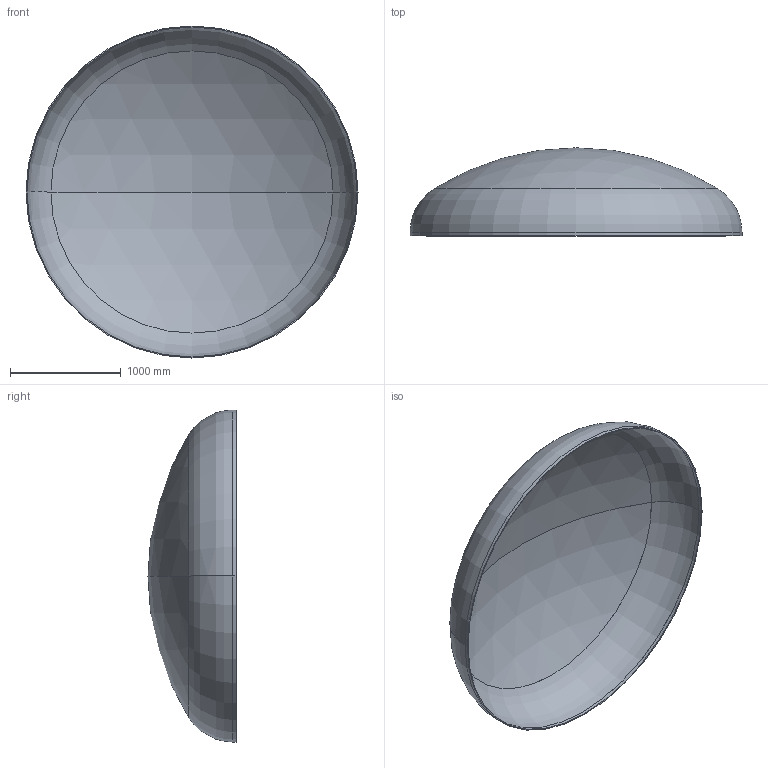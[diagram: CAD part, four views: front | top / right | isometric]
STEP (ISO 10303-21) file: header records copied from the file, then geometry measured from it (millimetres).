
FILE_DESCRIPTION (( 'STEP AP203' ), '1' );
FILE_NAME ('DIN 28013 Korbbogenform_-_Boden DIN 28013 - 3000 x 30 - I - s=9.step', '2016-07-01T17:27:46', ( '' ), ( '' ), 'SwSTEP 2.0', 'SolidWorks 2013', '' );
FILE_SCHEMA (( 'CONFIG_CONTROL_DESIGN' ));
Length unit declared in the file: millimetre
Products named in the file (1): DIN 28013 Korbbogenform_-_Boden DIN 28013 - 3000 x 30 - I - s=9
Bounding box: 3000 x 795.64 x 3000 mm (x, y, z)
Volume: 90229607.7 mm3; surface area: 20135753.9 mm2
Topology: 1 solids, 1 shells, 13 faces, 24 edges, 14 vertices
Faces by surface type: torus 4, cylinder 4, sphere 4, plane 1
Entity records: 407 total; most frequent: DIRECTION 72, CARTESIAN_POINT 52, ORIENTED_EDGE 48, AXIS2_PLACEMENT_3D 34, EDGE_CURVE 24, CIRCLE 20, EDGE_LOOP 14, VERTEX_POINT 14
